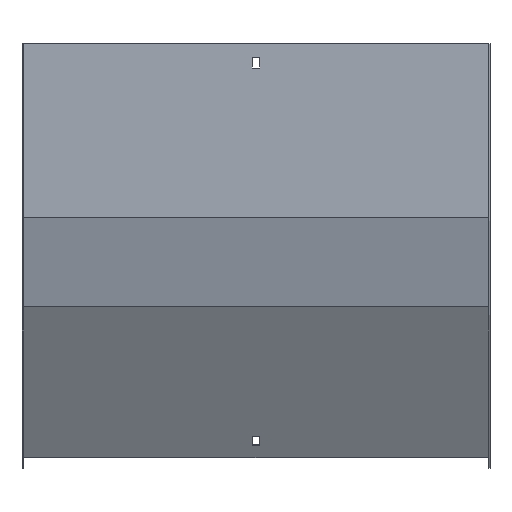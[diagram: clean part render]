
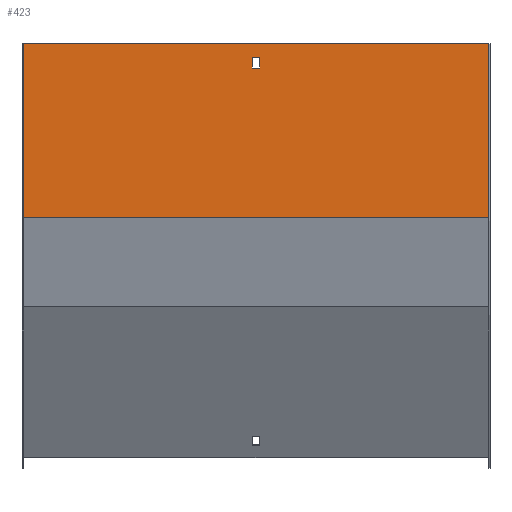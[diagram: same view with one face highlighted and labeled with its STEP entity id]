
A CAD part, front view. The second image highlights one B-rep face of the part: STEP entity #423.
In plain terms, the highlighted planar face has unit normal (0, -1, 0).
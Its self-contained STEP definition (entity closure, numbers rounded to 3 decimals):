
#17 = VERTEX_POINT ( 'NONE', #759 ) ;
#22 = AXIS2_PLACEMENT_3D ( 'NONE', #770, #533, #836 ) ;
#31 = ORIENTED_EDGE ( 'NONE', *, *, #745, .T. ) ;
#33 = CARTESIAN_POINT ( 'NONE',  ( 200., -1.5, 0. ) ) ;
#39 = DIRECTION ( 'NONE',  ( 0., 0., 1. ) ) ;
#59 = EDGE_CURVE ( 'NONE', #218, #257, #711, .T. ) ;
#60 = LINE ( 'NONE', #582, #765 ) ;
#85 = EDGE_CURVE ( 'NONE', #604, #98, #60, .T. ) ;
#91 = DIRECTION ( 'NONE',  ( -1., 0., 0. ) ) ;
#98 = VERTEX_POINT ( 'NONE', #375 ) ;
#138 = VERTEX_POINT ( 'NONE', #187 ) ;
#147 = CARTESIAN_POINT ( 'NONE',  ( -200., -1.5, -150.097 ) ) ;
#153 = CARTESIAN_POINT ( 'NONE',  ( -3.25, -1.5, -12. ) ) ;
#155 = ORIENTED_EDGE ( 'NONE', *, *, #59, .F. ) ;
#161 = DIRECTION ( 'NONE',  ( 0., 0., -1. ) ) ;
#167 = ORIENTED_EDGE ( 'NONE', *, *, #85, .F. ) ;
#175 = EDGE_LOOP ( 'NONE', ( #266, #155, #505, #31 ) ) ;
#180 = DIRECTION ( 'NONE',  ( -1., 0., 0. ) ) ;
#187 = CARTESIAN_POINT ( 'NONE',  ( 3.25, -1.5, -12. ) ) ;
#199 = CARTESIAN_POINT ( 'NONE',  ( 200., -1.5, -150.097 ) ) ;
#205 = LINE ( 'NONE', #258, #481 ) ;
#218 = VERTEX_POINT ( 'NONE', #199 ) ;
#257 = VERTEX_POINT ( 'NONE', #147 ) ;
#258 = CARTESIAN_POINT ( 'NONE',  ( 201.5, -1.5, -21. ) ) ;
#266 = ORIENTED_EDGE ( 'NONE', *, *, #837, .T. ) ;
#274 = VECTOR ( 'NONE', #91, 1000. ) ;
#303 = CARTESIAN_POINT ( 'NONE',  ( 3.25, -1.5, 0. ) ) ;
#313 = LINE ( 'NONE', #514, #556 ) ;
#327 = DIRECTION ( 'NONE',  ( 1., 0., 0. ) ) ;
#372 = CARTESIAN_POINT ( 'NONE',  ( 3.25, -1.5, -21. ) ) ;
#375 = CARTESIAN_POINT ( 'NONE',  ( -3.25, -1.5, -21. ) ) ;
#417 = CARTESIAN_POINT ( 'NONE',  ( 201.5, -1.5, -12. ) ) ;
#423 = ADVANCED_FACE ( 'NONE', ( #846, #654 ), #842, .F. ) ;
#437 = ORIENTED_EDGE ( 'NONE', *, *, #467, .F. ) ;
#467 = EDGE_CURVE ( 'NONE', #98, #734, #205, .T. ) ;
#481 = VECTOR ( 'NONE', #327, 1000. ) ;
#500 = LINE ( 'NONE', #33, #721 ) ;
#505 = ORIENTED_EDGE ( 'NONE', *, *, #710, .F. ) ;
#514 = CARTESIAN_POINT ( 'NONE',  ( -200., -1.5, 0. ) ) ;
#519 = DIRECTION ( 'NONE',  ( 0., 0., -1. ) ) ;
#520 = ORIENTED_EDGE ( 'NONE', *, *, #650, .F. ) ;
#533 = DIRECTION ( 'NONE',  ( 0., 1., 0. ) ) ;
#538 = DIRECTION ( 'NONE',  ( -1., 0., 0. ) ) ;
#556 = VECTOR ( 'NONE', #519, 1000. ) ;
#562 = DIRECTION ( 'NONE',  ( 0., 0., -1. ) ) ;
#566 = EDGE_CURVE ( 'NONE', #138, #604, #601, .T. ) ;
#582 = CARTESIAN_POINT ( 'NONE',  ( -3.25, -1.5, 0. ) ) ;
#584 = CARTESIAN_POINT ( 'NONE',  ( 200., -1.5, 0. ) ) ;
#601 = LINE ( 'NONE', #417, #784 ) ;
#604 = VERTEX_POINT ( 'NONE', #153 ) ;
#611 = VECTOR ( 'NONE', #39, 1000. ) ;
#625 = LINE ( 'NONE', #303, #611 ) ;
#650 = EDGE_CURVE ( 'NONE', #734, #138, #625, .T. ) ;
#654 = FACE_BOUND ( 'NONE', #813, .T. ) ;
#677 = CARTESIAN_POINT ( 'NONE',  ( 201.5, -1.5, 0. ) ) ;
#686 = LINE ( 'NONE', #677, #274 ) ;
#698 = CARTESIAN_POINT ( 'NONE',  ( 201.5, -1.5, -150.097 ) ) ;
#710 = EDGE_CURVE ( 'NONE', #800, #218, #500, .T. ) ;
#711 = LINE ( 'NONE', #698, #724 ) ;
#721 = VECTOR ( 'NONE', #161, 1000. ) ;
#724 = VECTOR ( 'NONE', #180, 1000. ) ;
#734 = VERTEX_POINT ( 'NONE', #372 ) ;
#745 = EDGE_CURVE ( 'NONE', #800, #17, #686, .T. ) ;
#759 = CARTESIAN_POINT ( 'NONE',  ( -200., -1.5, 0. ) ) ;
#765 = VECTOR ( 'NONE', #562, 1000. ) ;
#770 = CARTESIAN_POINT ( 'NONE',  ( 201.5, -1.5, 0. ) ) ;
#784 = VECTOR ( 'NONE', #538, 1000. ) ;
#800 = VERTEX_POINT ( 'NONE', #584 ) ;
#813 = EDGE_LOOP ( 'NONE', ( #520, #437, #167, #850 ) ) ;
#836 = DIRECTION ( 'NONE',  ( 0., 0., 1. ) ) ;
#837 = EDGE_CURVE ( 'NONE', #17, #257, #313, .T. ) ;
#842 = PLANE ( 'NONE',  #22 ) ;
#846 = FACE_OUTER_BOUND ( 'NONE', #175, .T. ) ;
#850 = ORIENTED_EDGE ( 'NONE', *, *, #566, .F. ) ;
